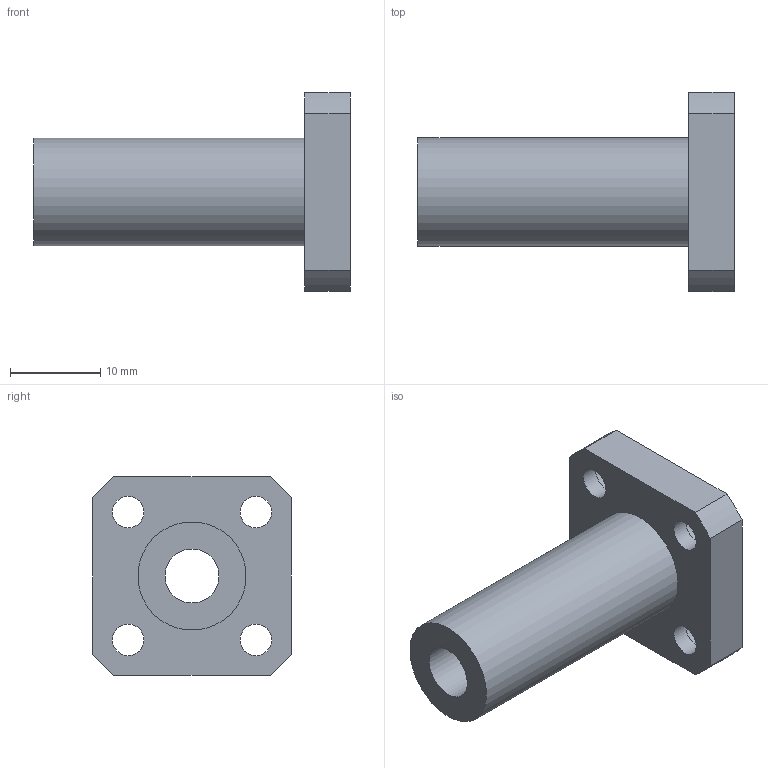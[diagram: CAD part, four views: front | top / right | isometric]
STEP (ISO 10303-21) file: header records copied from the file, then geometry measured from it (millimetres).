
FILE_DESCRIPTION(/* description */ (''),/* implementation_level */ '2;1');
FILE_NAME(/* name */ 'LMK6LUU',/* time_stamp */ '2019-07-09T15:49:03+02:00',/* author */ ('VĂ©gh MĂˇtĂ©'),/* organization */ ('Bearing Kft'),/* preprocessor_version */ 'ST-DEVELOPER v16.7',/* originating_system */ 'DEX',/* authorisation */ $);
FILE_SCHEMA (('AUTOMOTIVE_DESIGN {1 0 10303 214 3 1 1}'));
Length unit declared in the file: millimetre
Products named in the file (1): LMK6LUU
Bounding box: 35 x 22 x 22 mm (x, y, z)
Volume: 4348.8 mm3; surface area: 3342.7 mm2
Topology: 1 solids, 1 shells, 332 faces, 841 edges, 562 vertices
Faces by surface type: plane 252, bspline 64, cylinder 16
Full cylindrical faces by diameter (mm): 3.5 x4, 6 x5, 12 x1
Entity records: 12163 total; most frequent: CARTESIAN_POINT 4564, ORIENTED_EDGE 1650, DIRECTION 1267, EDGE_CURVE 825, LINE 665, VECTOR 665, VERTEX_POINT 558, EDGE_LOOP 405
